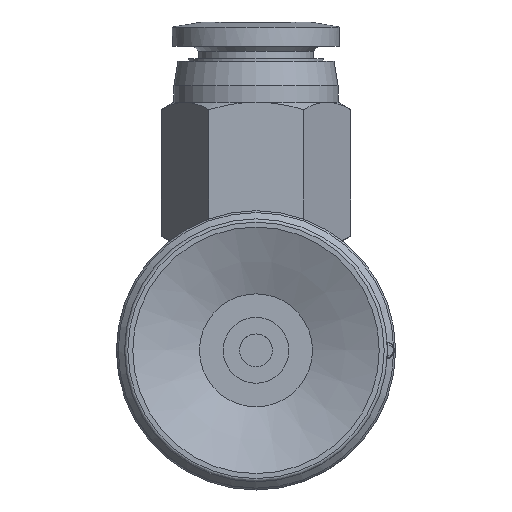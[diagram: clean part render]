
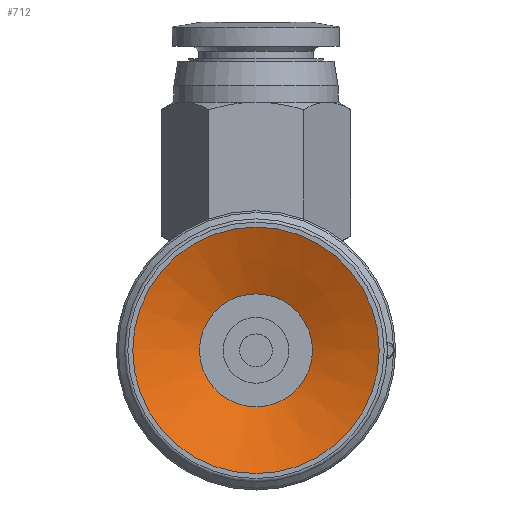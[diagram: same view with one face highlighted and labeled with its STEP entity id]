
A CAD part, front view. The second image highlights one B-rep face of the part: STEP entity #712.
In plain terms, the highlighted conical face has half-angle 67.5 degrees and reference radius 3.437 mm.
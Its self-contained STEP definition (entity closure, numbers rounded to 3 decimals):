
#712=ADVANCED_FACE('',(#1063,#1064),#1065,.F.);
#1063=FACE_BOUND('',#2501,.T.);
#1064=FACE_OUTER_BOUND('',#2502,.T.);
#1065=CONICAL_SURFACE('',#2503,3.437,1.178);
#2501=EDGE_LOOP('',(#3589));
#2502=EDGE_LOOP('',(#3590));
#2503=AXIS2_PLACEMENT_3D('',#3591,#3592,#3593);
#3589=ORIENTED_EDGE('',*,*,#4111,.F.);
#3590=ORIENTED_EDGE('',*,*,#4099,.T.);
#3591=CARTESIAN_POINT('',(0.0,0.0,1.683));
#3592=DIRECTION('',(0.0,0.,-1.0));
#3593=DIRECTION('',(0.0,1.0,0.));
#4099=EDGE_CURVE('',#4524,#4524,#4525,.T.);
#4111=EDGE_CURVE('',#4548,#4548,#4549,.T.);
#4524=VERTEX_POINT('',#5619);
#4525=CIRCLE('',#5620,7.5);
#4548=VERTEX_POINT('',#5643);
#4549=CIRCLE('',#5644,3.437);
#5619=CARTESIAN_POINT('',(-7.5,0.0,0.));
#5620=AXIS2_PLACEMENT_3D('',#6381,#6382,#6383);
#5643=CARTESIAN_POINT('',(-3.437,0.0,1.683));
#5644=AXIS2_PLACEMENT_3D('',#6417,#6418,#6419);
#6381=CARTESIAN_POINT('',(0.0,0.0,0.));
#6382=DIRECTION('',(0.0,0.,-1.0));
#6383=DIRECTION('',(0.0,1.0,0.));
#6417=CARTESIAN_POINT('',(0.0,0.0,1.683));
#6418=DIRECTION('',(0.0,0.,-1.0));
#6419=DIRECTION('',(0.0,1.0,0.));
